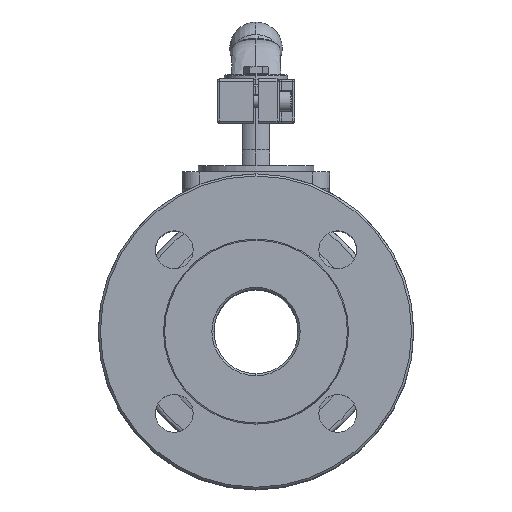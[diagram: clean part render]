
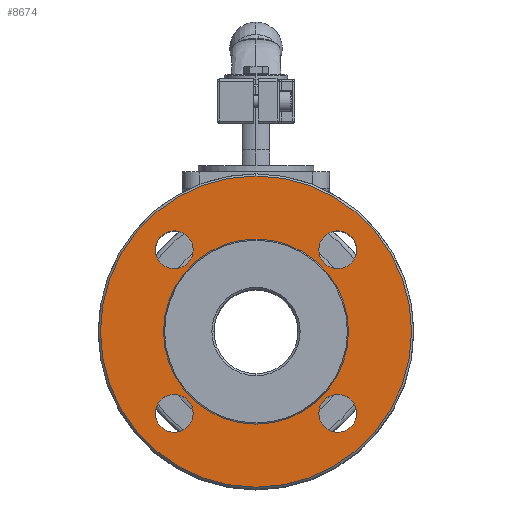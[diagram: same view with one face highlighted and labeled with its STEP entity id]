
A CAD part, top view. The second image highlights one B-rep face of the part: STEP entity #8674.
In plain terms, the highlighted planar face has unit normal (0, 0, 1) as drawn and (0, -1, 0) by its records, which use the part's own axes.
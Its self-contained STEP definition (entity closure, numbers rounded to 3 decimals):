
#428 = ORIENTED_EDGE ( 'NONE', *, *, #17954, .T. ) ;
#447 = DIRECTION ( 'NONE',  ( 0., 1., 0. ) ) ;
#479 = CIRCLE ( 'NONE', #31248, 9. ) ;
#750 = CARTESIAN_POINT ( 'NONE',  ( 0., -43.5, 42. ) ) ;
#1326 = DIRECTION ( 'NONE',  ( 0., 1., 0. ) ) ;
#2077 = ORIENTED_EDGE ( 'NONE', *, *, #36287, .T. ) ;
#2153 = AXIS2_PLACEMENT_3D ( 'NONE', #16083, #36314, #18973 ) ;
#2564 = CARTESIAN_POINT ( 'NONE',  ( -38.891, -43.5, 36.891 ) ) ;
#2585 = CARTESIAN_POINT ( 'NONE',  ( -38.891, -43.5, 36.891 ) ) ;
#2719 = EDGE_CURVE ( 'NONE', #36350, #30887, #21717, .T. ) ;
#2996 = FACE_BOUND ( 'NONE', #23069, .T. ) ;
#3149 = CIRCLE ( 'NONE', #33659, 9. ) ;
#3535 = DIRECTION ( 'NONE',  ( 0., -1., 0. ) ) ;
#5269 = PLANE ( 'NONE',  #25733 ) ;
#5494 = DIRECTION ( 'NONE',  ( 0., 0., 1. ) ) ;
#5517 = DIRECTION ( 'NONE',  ( 0., 0., 1. ) ) ;
#6176 = CIRCLE ( 'NONE', #2153, 9. ) ;
#7189 = ORIENTED_EDGE ( 'NONE', *, *, #31636, .T. ) ;
#7496 = CIRCLE ( 'NONE', #18450, 9. ) ;
#7894 = VERTEX_POINT ( 'NONE', #33966 ) ;
#7926 = VERTEX_POINT ( 'NONE', #34222 ) ;
#8583 = CIRCLE ( 'NONE', #14752, 9. ) ;
#8674 = ADVANCED_FACE ( 'NONE', ( #33826, #11631, #10702, #2996, #32952, #18420 ), #5269, .T. ) ;
#8724 = VERTEX_POINT ( 'NONE', #25696 ) ;
#8750 = VERTEX_POINT ( 'NONE', #14162 ) ;
#8933 = CARTESIAN_POINT ( 'NONE',  ( 0., -43.5, -2. ) ) ;
#9407 = EDGE_CURVE ( 'NONE', #8750, #24067, #32486, .T. ) ;
#9749 = CIRCLE ( 'NONE', #31116, 9. ) ;
#10522 = ORIENTED_EDGE ( 'NONE', *, *, #20826, .T. ) ;
#10670 = AXIS2_PLACEMENT_3D ( 'NONE', #31054, #13652, #33924 ) ;
#10702 = FACE_BOUND ( 'NONE', #22209, .T. ) ;
#11112 = DIRECTION ( 'NONE',  ( 0., 0., -1. ) ) ;
#11194 = CIRCLE ( 'NONE', #37327, 44. ) ;
#11631 = FACE_BOUND ( 'NONE', #23342, .T. ) ;
#11706 = CARTESIAN_POINT ( 'NONE',  ( 38.891, -43.5, 36.891 ) ) ;
#11855 = DIRECTION ( 'NONE',  ( 0., 0., 1. ) ) ;
#12632 = CARTESIAN_POINT ( 'NONE',  ( 38.891, -43.5, -40.891 ) ) ;
#13567 = DIRECTION ( 'NONE',  ( 0., 1., 0. ) ) ;
#13652 = DIRECTION ( 'NONE',  ( 0., 1., 0. ) ) ;
#14016 = EDGE_LOOP ( 'NONE', ( #29086, #29157 ) ) ;
#14162 = CARTESIAN_POINT ( 'NONE',  ( -38.891, -43.5, -49.891 ) ) ;
#14635 = DIRECTION ( 'NONE',  ( 0., 0., 1. ) ) ;
#14655 = CARTESIAN_POINT ( 'NONE',  ( 0., -43.5, 72. ) ) ;
#14752 = AXIS2_PLACEMENT_3D ( 'NONE', #14897, #35161, #17818 ) ;
#14897 = CARTESIAN_POINT ( 'NONE',  ( 38.891, -43.5, -40.891 ) ) ;
#15230 = CARTESIAN_POINT ( 'NONE',  ( -38.891, -43.5, 45.891 ) ) ;
#15234 = CARTESIAN_POINT ( 'NONE',  ( 38.891, -43.5, 45.891 ) ) ;
#15558 = DIRECTION ( 'NONE',  ( 0., 0., 1. ) ) ;
#16083 = CARTESIAN_POINT ( 'NONE',  ( 38.891, -43.5, 36.891 ) ) ;
#16909 = AXIS2_PLACEMENT_3D ( 'NONE', #20895, #3535, #23799 ) ;
#17251 = AXIS2_PLACEMENT_3D ( 'NONE', #8933, #29240, #11855 ) ;
#17501 = CIRCLE ( 'NONE', #17251, 74. ) ;
#17812 = CARTESIAN_POINT ( 'NONE',  ( -38.891, -43.5, -40.891 ) ) ;
#17818 = DIRECTION ( 'NONE',  ( 0., 0., 1. ) ) ;
#17954 = EDGE_CURVE ( 'NONE', #25265, #8724, #11194, .T. ) ;
#18420 = FACE_BOUND ( 'NONE', #33965, .T. ) ;
#18450 = AXIS2_PLACEMENT_3D ( 'NONE', #12632, #32923, #15558 ) ;
#18667 = CARTESIAN_POINT ( 'NONE',  ( 0., -43.5, -2. ) ) ;
#18929 = EDGE_CURVE ( 'NONE', #7926, #25849, #6176, .T. ) ;
#18973 = DIRECTION ( 'NONE',  ( 0., 0., 1. ) ) ;
#19292 = CARTESIAN_POINT ( 'NONE',  ( -38.891, -43.5, -31.891 ) ) ;
#19745 = ORIENTED_EDGE ( 'NONE', *, *, #36845, .T. ) ;
#20010 = AXIS2_PLACEMENT_3D ( 'NONE', #18667, #1326, #21583 ) ;
#20707 = DIRECTION ( 'NONE',  ( 0., 0., 1. ) ) ;
#20826 = EDGE_CURVE ( 'NONE', #35350, #24508, #9749, .T. ) ;
#20895 = CARTESIAN_POINT ( 'NONE',  ( 0., -43.5, -2. ) ) ;
#21119 = AXIS2_PLACEMENT_3D ( 'NONE', #17812, #447, #20707 ) ;
#21583 = DIRECTION ( 'NONE',  ( 0., 0., 1. ) ) ;
#21709 = ORIENTED_EDGE ( 'NONE', *, *, #36392, .T. ) ;
#21717 = CIRCLE ( 'NONE', #16909, 74. ) ;
#22209 = EDGE_LOOP ( 'NONE', ( #21709, #33139 ) ) ;
#22513 = CARTESIAN_POINT ( 'NONE',  ( 0., -43.5, -61.5 ) ) ;
#22860 = DIRECTION ( 'NONE',  ( 0., 1., 0. ) ) ;
#22881 = DIRECTION ( 'NONE',  ( 0., 1., 0. ) ) ;
#23069 = EDGE_LOOP ( 'NONE', ( #36646, #10522 ) ) ;
#23135 = CARTESIAN_POINT ( 'NONE',  ( 38.891, -43.5, -49.891 ) ) ;
#23342 = EDGE_LOOP ( 'NONE', ( #7189, #19745 ) ) ;
#23799 = DIRECTION ( 'NONE',  ( 0., 0., 1. ) ) ;
#24067 = VERTEX_POINT ( 'NONE', #19292 ) ;
#24508 = VERTEX_POINT ( 'NONE', #15230 ) ;
#25265 = VERTEX_POINT ( 'NONE', #750 ) ;
#25696 = CARTESIAN_POINT ( 'NONE',  ( 0., -43.5, -46. ) ) ;
#25733 = AXIS2_PLACEMENT_3D ( 'NONE', #22513, #28498, #11112 ) ;
#25849 = VERTEX_POINT ( 'NONE', #15234 ) ;
#26125 = CIRCLE ( 'NONE', #21119, 9. ) ;
#26906 = EDGE_CURVE ( 'NONE', #8724, #25265, #28602, .T. ) ;
#28498 = DIRECTION ( 'NONE',  ( 0., -1., 0. ) ) ;
#28602 = CIRCLE ( 'NONE', #20010, 44. ) ;
#29086 = ORIENTED_EDGE ( 'NONE', *, *, #29862, .T. ) ;
#29157 = ORIENTED_EDGE ( 'NONE', *, *, #18929, .T. ) ;
#29240 = DIRECTION ( 'NONE',  ( 0., -1., 0. ) ) ;
#29862 = EDGE_CURVE ( 'NONE', #25849, #7926, #479, .T. ) ;
#30565 = ORIENTED_EDGE ( 'NONE', *, *, #2719, .T. ) ;
#30860 = EDGE_CURVE ( 'NONE', #24508, #35350, #3149, .T. ) ;
#30887 = VERTEX_POINT ( 'NONE', #37289 ) ;
#30971 = CARTESIAN_POINT ( 'NONE',  ( 0., -43.5, -2. ) ) ;
#31054 = CARTESIAN_POINT ( 'NONE',  ( -38.891, -43.5, -40.891 ) ) ;
#31116 = AXIS2_PLACEMENT_3D ( 'NONE', #2564, #22860, #5494 ) ;
#31218 = CARTESIAN_POINT ( 'NONE',  ( -38.891, -43.5, 27.891 ) ) ;
#31248 = AXIS2_PLACEMENT_3D ( 'NONE', #11706, #32019, #14635 ) ;
#31478 = VERTEX_POINT ( 'NONE', #23135 ) ;
#31636 = EDGE_CURVE ( 'NONE', #7894, #31478, #8583, .T. ) ;
#32019 = DIRECTION ( 'NONE',  ( 0., 1., 0. ) ) ;
#32486 = CIRCLE ( 'NONE', #10670, 9. ) ;
#32768 = ORIENTED_EDGE ( 'NONE', *, *, #26906, .T. ) ;
#32923 = DIRECTION ( 'NONE',  ( 0., 1., 0. ) ) ;
#32952 = FACE_BOUND ( 'NONE', #14016, .T. ) ;
#33139 = ORIENTED_EDGE ( 'NONE', *, *, #9407, .T. ) ;
#33659 = AXIS2_PLACEMENT_3D ( 'NONE', #2585, #22881, #5517 ) ;
#33826 = FACE_OUTER_BOUND ( 'NONE', #36598, .T. ) ;
#33844 = DIRECTION ( 'NONE',  ( 0., 0., 1. ) ) ;
#33924 = DIRECTION ( 'NONE',  ( 0., 0., 1. ) ) ;
#33965 = EDGE_LOOP ( 'NONE', ( #428, #32768 ) ) ;
#33966 = CARTESIAN_POINT ( 'NONE',  ( 38.891, -43.5, -31.891 ) ) ;
#34222 = CARTESIAN_POINT ( 'NONE',  ( 38.891, -43.5, 27.891 ) ) ;
#35161 = DIRECTION ( 'NONE',  ( 0., 1., 0. ) ) ;
#35350 = VERTEX_POINT ( 'NONE', #31218 ) ;
#36287 = EDGE_CURVE ( 'NONE', #30887, #36350, #17501, .T. ) ;
#36314 = DIRECTION ( 'NONE',  ( 0., 1., 0. ) ) ;
#36350 = VERTEX_POINT ( 'NONE', #14655 ) ;
#36392 = EDGE_CURVE ( 'NONE', #24067, #8750, #26125, .T. ) ;
#36598 = EDGE_LOOP ( 'NONE', ( #30565, #2077 ) ) ;
#36646 = ORIENTED_EDGE ( 'NONE', *, *, #30860, .T. ) ;
#36845 = EDGE_CURVE ( 'NONE', #31478, #7894, #7496, .T. ) ;
#37289 = CARTESIAN_POINT ( 'NONE',  ( 0., -43.5, -76. ) ) ;
#37327 = AXIS2_PLACEMENT_3D ( 'NONE', #30971, #13567, #33844 ) ;
